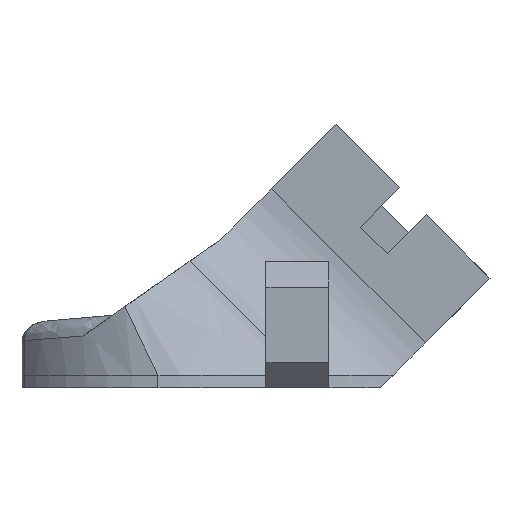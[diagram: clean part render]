
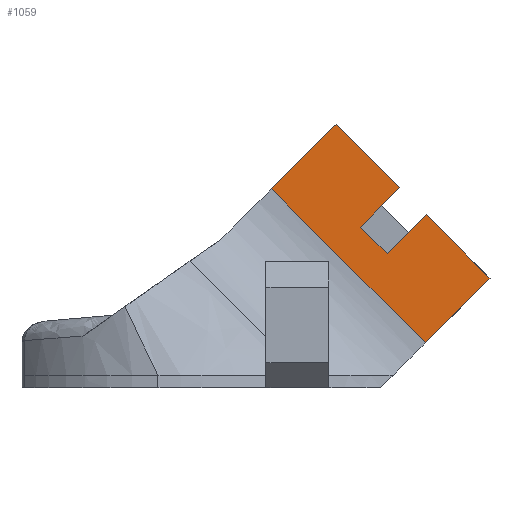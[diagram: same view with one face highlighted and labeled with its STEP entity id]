
A CAD part, left-side view. The second image highlights one B-rep face of the part: STEP entity #1059.
In plain terms, the highlighted planar face has unit normal (-1, 0, 0).
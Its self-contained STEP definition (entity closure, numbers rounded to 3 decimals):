
#965=CARTESIAN_POINT('Vertex',(-10.8,-31.844,14.955)) ;
#968=CARTESIAN_POINT('Line Origine',(-10.8,-34.372,12.427)) ;
#972=CARTESIAN_POINT('Vertex',(-10.8,-36.899,9.899)) ;
#989=CARTESIAN_POINT('Axis2P3D Location',(-10.8,-27.,0.)) ;
#994=CARTESIAN_POINT('Line Origine',(-10.8,-28.361,18.438)) ;
#998=CARTESIAN_POINT('Vertex',(-10.8,-27.,19.799)) ;
#1000=CARTESIAN_POINT('Vertex',(-10.8,-29.722,17.077)) ;
#1003=CARTESIAN_POINT('Line Origine',(-10.8,-25.833,20.966)) ;
#1007=CARTESIAN_POINT('Vertex',(-10.8,-24.667,22.132)) ;
#1010=CARTESIAN_POINT('Line Origine',(-10.8,-22.099,19.565)) ;
#1014=CARTESIAN_POINT('Vertex',(-10.8,-19.531,16.997)) ;
#1017=CARTESIAN_POINT('Line Origine',(-10.8,-25.647,10.88)) ;
#1021=CARTESIAN_POINT('Vertex',(-10.8,-31.764,4.764)) ;
#1024=CARTESIAN_POINT('Line Origine',(-10.8,-34.332,7.332)) ;
#1029=CARTESIAN_POINT('Line Origine',(-10.8,-30.288,13.4)) ;
#1033=CARTESIAN_POINT('Vertex',(-10.8,-28.732,11.844)) ;
#1036=CARTESIAN_POINT('Line Origine',(-10.8,-27.672,12.905)) ;
#1040=CARTESIAN_POINT('Vertex',(-10.8,-26.611,13.965)) ;
#1043=CARTESIAN_POINT('Line Origine',(-10.8,-28.167,15.521)) ;
#969=DIRECTION('Vector Direction',(0.,-0.707,-0.707)) ;
#990=DIRECTION('Axis2P3D Direction',(-1.,0.,0.)) ;
#991=DIRECTION('Axis2P3D XDirection',(0.,-1.,0.)) ;
#995=DIRECTION('Vector Direction',(0.,-0.707,-0.707)) ;
#1004=DIRECTION('Vector Direction',(0.,-0.707,-0.707)) ;
#1011=DIRECTION('Vector Direction',(0.,-0.707,0.707)) ;
#1018=DIRECTION('Vector Direction',(0.,0.707,0.707)) ;
#1025=DIRECTION('Vector Direction',(0.,-0.707,0.707)) ;
#1030=DIRECTION('Vector Direction',(0.,-0.707,0.707)) ;
#1037=DIRECTION('Vector Direction',(0.,-0.707,-0.707)) ;
#1044=DIRECTION('Vector Direction',(0.,0.707,-0.707)) ;
#992=AXIS2_PLACEMENT_3D('Plane Axis2P3D',#989,#990,#991) ;
#1049=ORIENTED_EDGE('',*,*,#1002,.F.) ;
#1050=ORIENTED_EDGE('',*,*,#1009,.F.) ;
#1051=ORIENTED_EDGE('',*,*,#1016,.F.) ;
#1052=ORIENTED_EDGE('',*,*,#1023,.T.) ;
#1053=ORIENTED_EDGE('',*,*,#1028,.T.) ;
#1054=ORIENTED_EDGE('',*,*,#974,.F.) ;
#1055=ORIENTED_EDGE('',*,*,#1035,.F.) ;
#1056=ORIENTED_EDGE('',*,*,#1042,.F.) ;
#1057=ORIENTED_EDGE('',*,*,#1047,.F.) ;
#970=VECTOR('Line Direction',#969,1.) ;
#996=VECTOR('Line Direction',#995,1.) ;
#1005=VECTOR('Line Direction',#1004,1.) ;
#1012=VECTOR('Line Direction',#1011,1.) ;
#1019=VECTOR('Line Direction',#1018,1.) ;
#1026=VECTOR('Line Direction',#1025,1.) ;
#1031=VECTOR('Line Direction',#1030,1.) ;
#1038=VECTOR('Line Direction',#1037,1.) ;
#1045=VECTOR('Line Direction',#1044,1.) ;
#1059=ADVANCED_FACE('PartBody',(#1058),#993,.T.) ;
#974=EDGE_CURVE('',#966,#973,#971,.T.) ;
#1002=EDGE_CURVE('',#999,#1001,#997,.T.) ;
#1009=EDGE_CURVE('',#1008,#999,#1006,.T.) ;
#1016=EDGE_CURVE('',#1015,#1008,#1013,.T.) ;
#1023=EDGE_CURVE('',#1015,#1022,#1020,.F.) ;
#1028=EDGE_CURVE('',#1022,#973,#1027,.T.) ;
#1035=EDGE_CURVE('',#1034,#966,#1032,.T.) ;
#1042=EDGE_CURVE('',#1041,#1034,#1039,.T.) ;
#1047=EDGE_CURVE('',#1001,#1041,#1046,.T.) ;
#1048=EDGE_LOOP('',(#1049,#1050,#1051,#1052,#1053,#1054,#1055,#1056,#1057)) ;
#1058=FACE_OUTER_BOUND('',#1048,.T.) ;
#971=LINE('Line',#968,#970) ;
#997=LINE('Line',#994,#996) ;
#1006=LINE('Line',#1003,#1005) ;
#1013=LINE('Line',#1010,#1012) ;
#1020=LINE('Line',#1017,#1019) ;
#1027=LINE('Line',#1024,#1026) ;
#1032=LINE('Line',#1029,#1031) ;
#1039=LINE('Line',#1036,#1038) ;
#1046=LINE('Line',#1043,#1045) ;
#993=PLANE('Plane',#992) ;
#966=VERTEX_POINT('',#965) ;
#973=VERTEX_POINT('',#972) ;
#999=VERTEX_POINT('',#998) ;
#1001=VERTEX_POINT('',#1000) ;
#1008=VERTEX_POINT('',#1007) ;
#1015=VERTEX_POINT('',#1014) ;
#1022=VERTEX_POINT('',#1021) ;
#1034=VERTEX_POINT('',#1033) ;
#1041=VERTEX_POINT('',#1040) ;
